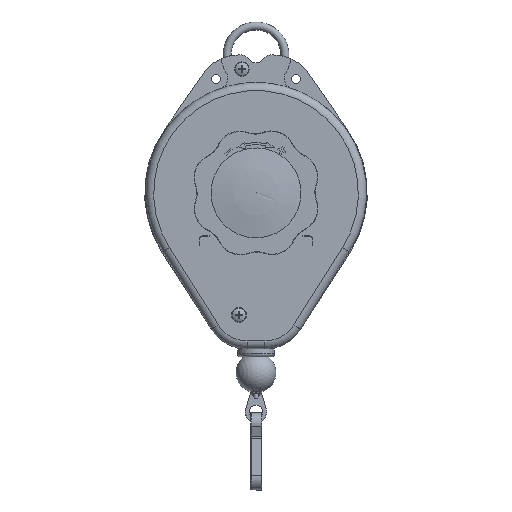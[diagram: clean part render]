
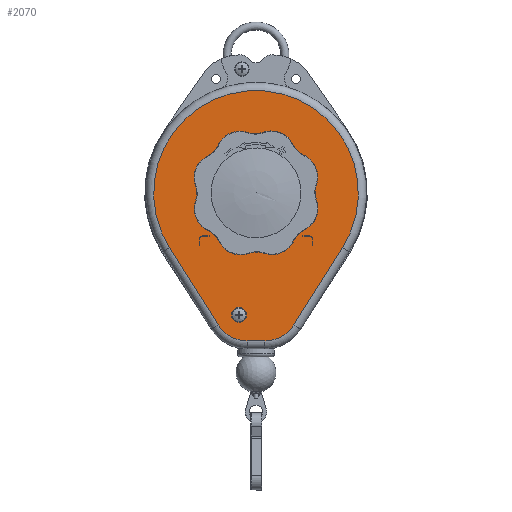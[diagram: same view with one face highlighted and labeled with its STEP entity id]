
A CAD part, front view. The second image highlights one B-rep face of the part: STEP entity #2070.
In plain terms, the highlighted planar face has unit normal (0, -1, 0) as drawn and (0, 1, 0) by its records, which use the part's own axes.
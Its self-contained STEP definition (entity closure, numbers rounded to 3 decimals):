
#187=CARTESIAN_POINT('',(-26.5,15.3,-21.5));
#188=VERTEX_POINT('',#187);
#195=CARTESIAN_POINT('',(-23.5,15.3,-21.5));
#196=VERTEX_POINT('',#195);
#197=CARTESIAN_POINT('',(-23.5,15.3,-21.5));
#198=DIRECTION('',(-1.0,0.0,0.0));
#199=VECTOR('',#198,3.0);
#200=LINE('',#197,#199);
#201=EDGE_CURVE('',#196,#188,#200,.T.);
#218=CARTESIAN_POINT('',(-28.5,15.3,-23.5));
#219=VERTEX_POINT('',#218);
#226=CARTESIAN_POINT('',(-26.5,15.3,-23.5));
#227=DIRECTION('',(0.0,-1.0,0.0));
#228=DIRECTION('',(-1.0,0.0,0.0));
#229=AXIS2_PLACEMENT_3D('',#226,#227,#228);
#230=CIRCLE('',#229,2.);
#231=EDGE_CURVE('',#188,#219,#230,.T.);
#243=CARTESIAN_POINT('',(-28.5,15.3,-26.5));
#244=VERTEX_POINT('',#243);
#251=CARTESIAN_POINT('',(-28.5,15.3,-23.5));
#252=DIRECTION('',(0.0,0.0,-1.0));
#253=VECTOR('',#252,3.);
#254=LINE('',#251,#253);
#255=EDGE_CURVE('',#219,#244,#254,.T.);
#267=CARTESIAN_POINT('',(-28.4,15.3,-26.5));
#268=VERTEX_POINT('',#267);
#275=CARTESIAN_POINT('',(-28.5,15.3,-26.5));
#276=DIRECTION('',(1.0,0.0,0.0));
#277=VECTOR('',#276,0.1);
#278=LINE('',#275,#277);
#279=EDGE_CURVE('',#244,#268,#278,.T.);
#291=CARTESIAN_POINT('',(-28.4,15.3,-23.5));
#292=VERTEX_POINT('',#291);
#299=CARTESIAN_POINT('',(-28.4,15.3,-26.5));
#300=DIRECTION('',(0.0,0.0,1.0));
#301=VECTOR('',#300,3.);
#302=LINE('',#299,#301);
#303=EDGE_CURVE('',#268,#292,#302,.T.);
#315=CARTESIAN_POINT('',(-26.5,15.3,-21.6));
#316=VERTEX_POINT('',#315);
#323=CARTESIAN_POINT('',(-26.5,15.3,-23.5));
#324=DIRECTION('',(0.0,1.0,0.0));
#325=DIRECTION('',(1.0,0.0,0.0));
#326=AXIS2_PLACEMENT_3D('',#323,#324,#325);
#327=CIRCLE('',#326,1.9);
#328=EDGE_CURVE('',#292,#316,#327,.T.);
#340=CARTESIAN_POINT('',(-23.5,15.3,-21.6));
#341=VERTEX_POINT('',#340);
#348=CARTESIAN_POINT('',(-26.5,15.3,-21.6));
#349=DIRECTION('',(1.0,0.0,0.0));
#350=VECTOR('',#349,3.0);
#351=LINE('',#348,#350);
#352=EDGE_CURVE('',#316,#341,#351,.T.);
#365=CARTESIAN_POINT('',(-23.5,15.3,-21.6));
#366=DIRECTION('',(0.0,0.0,1.0));
#367=VECTOR('',#366,0.1);
#368=LINE('',#365,#367);
#369=EDGE_CURVE('',#341,#196,#368,.T.);
#455=CARTESIAN_POINT('',(28.4,15.3,-26.5));
#456=VERTEX_POINT('',#455);
#463=CARTESIAN_POINT('',(28.4,15.3,-23.5));
#464=VERTEX_POINT('',#463);
#465=CARTESIAN_POINT('',(28.4,15.3,-23.5));
#466=DIRECTION('',(0.0,0.0,-1.0));
#467=VECTOR('',#466,3.);
#468=LINE('',#465,#467);
#469=EDGE_CURVE('',#464,#456,#468,.T.);
#486=CARTESIAN_POINT('',(28.5,15.3,-26.5));
#487=VERTEX_POINT('',#486);
#494=CARTESIAN_POINT('',(28.4,15.3,-26.5));
#495=DIRECTION('',(1.0,0.0,0.0));
#496=VECTOR('',#495,0.1);
#497=LINE('',#494,#496);
#498=EDGE_CURVE('',#456,#487,#497,.T.);
#510=CARTESIAN_POINT('',(28.5,15.3,-23.5));
#511=VERTEX_POINT('',#510);
#518=CARTESIAN_POINT('',(28.5,15.3,-26.5));
#519=DIRECTION('',(0.0,0.0,1.0));
#520=VECTOR('',#519,3.);
#521=LINE('',#518,#520);
#522=EDGE_CURVE('',#487,#511,#521,.T.);
#534=CARTESIAN_POINT('',(26.5,15.3,-21.5));
#535=VERTEX_POINT('',#534);
#542=CARTESIAN_POINT('',(26.5,15.3,-23.5));
#543=DIRECTION('',(0.0,-1.0,0.0));
#544=DIRECTION('',(0.0,0.0,-1.0));
#545=AXIS2_PLACEMENT_3D('',#542,#543,#544);
#546=CIRCLE('',#545,2.);
#547=EDGE_CURVE('',#511,#535,#546,.T.);
#559=CARTESIAN_POINT('',(23.5,15.3,-21.5));
#560=VERTEX_POINT('',#559);
#567=CARTESIAN_POINT('',(26.5,15.3,-21.5));
#568=DIRECTION('',(-1.0,0.0,0.0));
#569=VECTOR('',#568,3.0);
#570=LINE('',#567,#569);
#571=EDGE_CURVE('',#535,#560,#570,.T.);
#583=CARTESIAN_POINT('',(23.5,15.3,-21.6));
#584=VERTEX_POINT('',#583);
#591=CARTESIAN_POINT('',(23.5,15.3,-21.5));
#592=DIRECTION('',(0.0,0.0,-1.0));
#593=VECTOR('',#592,0.1);
#594=LINE('',#591,#593);
#595=EDGE_CURVE('',#560,#584,#594,.T.);
#607=CARTESIAN_POINT('',(26.5,15.3,-21.6));
#608=VERTEX_POINT('',#607);
#615=CARTESIAN_POINT('',(23.5,15.3,-21.6));
#616=DIRECTION('',(1.0,0.0,0.0));
#617=VECTOR('',#616,3.0);
#618=LINE('',#615,#617);
#619=EDGE_CURVE('',#584,#608,#618,.T.);
#632=CARTESIAN_POINT('',(26.5,15.3,-23.5));
#633=DIRECTION('',(0.0,1.0,0.0));
#634=DIRECTION('',(0.0,0.0,1.0));
#635=AXIS2_PLACEMENT_3D('',#632,#633,#634);
#636=CIRCLE('',#635,1.9);
#637=EDGE_CURVE('',#608,#464,#636,.T.);
#1657=CARTESIAN_POINT('',(20.5,15.3,0.));
#1658=VERTEX_POINT('',#1657);
#1659=CARTESIAN_POINT('',(0.0,15.3,0.0));
#1660=DIRECTION('',(0.0,-1.0,0.0));
#1661=DIRECTION('',(-1.0,0.0,0.0));
#1662=AXIS2_PLACEMENT_3D('',#1659,#1660,#1661);
#1663=CIRCLE('',#1662,20.5);
#1664=EDGE_CURVE('',#1658,#1658,#1663,.T.);
#1674=CARTESIAN_POINT('',(-43.314,15.3,-27.3));
#1675=VERTEX_POINT('',#1674);
#1694=CARTESIAN_POINT('',(43.314,15.3,-27.3));
#1695=VERTEX_POINT('',#1694);
#1703=CARTESIAN_POINT('',(0.0,15.3,0.0));
#1704=DIRECTION('',(0.0,-1.0,0.0));
#1705=DIRECTION('',(0.0,0.0,1.0));
#1706=AXIS2_PLACEMENT_3D('',#1703,#1704,#1705);
#1707=CIRCLE('',#1706,51.2);
#1708=EDGE_CURVE('',#1695,#1675,#1707,.T.);
#1718=CARTESIAN_POINT('',(-18.882,15.3,-66.065));
#1719=VERTEX_POINT('',#1718);
#1736=CARTESIAN_POINT('',(-43.314,15.3,-27.3));
#1737=DIRECTION('',(0.533,0.0,-0.846));
#1738=VECTOR('',#1737,45.822);
#1739=LINE('',#1736,#1738);
#1740=EDGE_CURVE('',#1675,#1719,#1739,.T.);
#1752=CARTESIAN_POINT('',(18.882,15.3,-66.065));
#1753=VERTEX_POINT('',#1752);
#1761=CARTESIAN_POINT('',(18.882,15.3,-66.065));
#1762=DIRECTION('',(0.533,0.0,0.846));
#1763=VECTOR('',#1762,45.822);
#1764=LINE('',#1761,#1763);
#1765=EDGE_CURVE('',#1753,#1695,#1764,.T.);
#1782=CARTESIAN_POINT('',(-4.5,15.3,-74.0));
#1783=VERTEX_POINT('',#1782);
#1801=CARTESIAN_POINT('',(-4.5,15.3,-57.0));
#1802=DIRECTION('',(0.0,-1.,0.0));
#1803=DIRECTION('',(-0.483,0.0,-0.876));
#1804=AXIS2_PLACEMENT_3D('',#1801,#1802,#1803);
#1805=CIRCLE('',#1804,17.0);
#1806=EDGE_CURVE('',#1719,#1783,#1805,.T.);
#1818=CARTESIAN_POINT('',(4.5,15.3,-74.));
#1819=VERTEX_POINT('',#1818);
#1827=CARTESIAN_POINT('',(4.5,15.3,-57.0));
#1828=DIRECTION('',(0.0,-1.0,0.0));
#1829=DIRECTION('',(0.483,0.0,-0.876));
#1830=AXIS2_PLACEMENT_3D('',#1827,#1828,#1829);
#1831=CIRCLE('',#1830,17.);
#1832=EDGE_CURVE('',#1819,#1753,#1831,.T.);
#1858=CARTESIAN_POINT('',(-4.5,15.3,-74.0));
#1859=DIRECTION('',(1.0,0.0,0.0));
#1860=VECTOR('',#1859,9.0);
#1861=LINE('',#1858,#1860);
#1862=EDGE_CURVE('',#1783,#1819,#1861,.T.);
#2023=CARTESIAN_POINT('',(0.,15.3,-2.505));
#2024=DIRECTION('',(0.0,1.0,0.0));
#2025=DIRECTION('',(0.0,0.0,1.0));
#2026=AXIS2_PLACEMENT_3D('',#2023,#2024,#2025);
#2027=PLANE('',#2026);
#2028=ORIENTED_EDGE('',*,*,#1708,.F.);
#2029=ORIENTED_EDGE('',*,*,#1765,.F.);
#2030=ORIENTED_EDGE('',*,*,#1832,.F.);
#2031=ORIENTED_EDGE('',*,*,#1862,.F.);
#2032=ORIENTED_EDGE('',*,*,#1806,.F.);
#2033=ORIENTED_EDGE('',*,*,#1740,.F.);
#2034=EDGE_LOOP('',(#2028,#2029,#2030,#2031,#2032,#2033));
#2035=FACE_OUTER_BOUND('',#2034,.T.);
#2036=ORIENTED_EDGE('',*,*,#201,.T.);
#2037=ORIENTED_EDGE('',*,*,#231,.T.);
#2038=ORIENTED_EDGE('',*,*,#255,.T.);
#2039=ORIENTED_EDGE('',*,*,#279,.T.);
#2040=ORIENTED_EDGE('',*,*,#303,.T.);
#2041=ORIENTED_EDGE('',*,*,#328,.T.);
#2042=ORIENTED_EDGE('',*,*,#352,.T.);
#2043=ORIENTED_EDGE('',*,*,#369,.T.);
#2044=EDGE_LOOP('',(#2036,#2037,#2038,#2039,#2040,#2041,#2042,#2043));
#2045=FACE_BOUND('',#2044,.T.);
#2046=ORIENTED_EDGE('',*,*,#469,.T.);
#2047=ORIENTED_EDGE('',*,*,#498,.T.);
#2048=ORIENTED_EDGE('',*,*,#522,.T.);
#2049=ORIENTED_EDGE('',*,*,#547,.T.);
#2050=ORIENTED_EDGE('',*,*,#571,.T.);
#2051=ORIENTED_EDGE('',*,*,#595,.T.);
#2052=ORIENTED_EDGE('',*,*,#619,.T.);
#2053=ORIENTED_EDGE('',*,*,#637,.T.);
#2054=EDGE_LOOP('',(#2046,#2047,#2048,#2049,#2050,#2051,#2052,#2053));
#2055=FACE_BOUND('',#2054,.T.);
#2056=ORIENTED_EDGE('',*,*,#1664,.T.);
#2057=EDGE_LOOP('',(#2056));
#2058=FACE_BOUND('',#2057,.T.);
#2059=CARTESIAN_POINT('',(4.75,15.3,-61.));
#2060=VERTEX_POINT('',#2059);
#2061=CARTESIAN_POINT('',(8.5,15.3,-61.));
#2062=DIRECTION('',(0.0,-1.0,0.0));
#2063=DIRECTION('',(-1.0,0.0,0.0));
#2064=AXIS2_PLACEMENT_3D('',#2061,#2062,#2063);
#2065=CIRCLE('',#2064,3.75);
#2066=EDGE_CURVE('',#2060,#2060,#2065,.T.);
#2067=ORIENTED_EDGE('',*,*,#2066,.T.);
#2068=EDGE_LOOP('',(#2067));
#2069=FACE_BOUND('',#2068,.T.);
#2070=ADVANCED_FACE('',(#2035,#2045,#2055,#2058,#2069),#2027,.T.);
